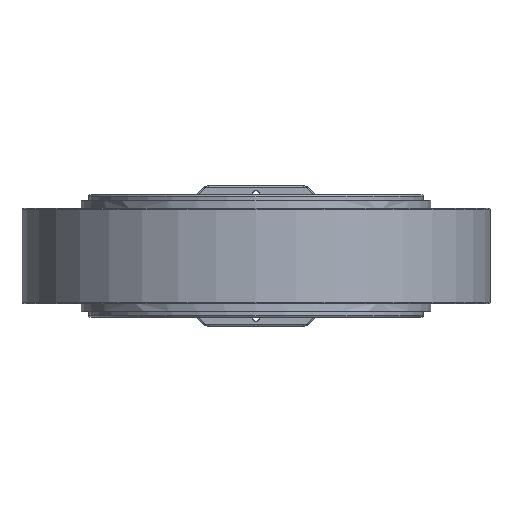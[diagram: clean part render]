
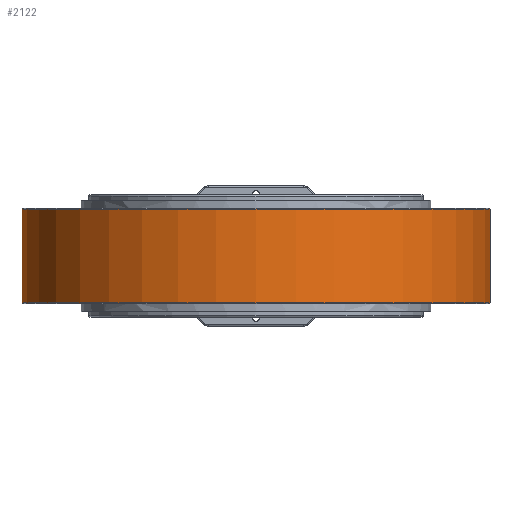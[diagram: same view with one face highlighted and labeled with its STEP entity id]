
A CAD part, front view. The second image highlights one B-rep face of the part: STEP entity #2122.
In plain terms, the highlighted cylindrical face has radius 170 mm (diameter 340 mm), a partial arc.
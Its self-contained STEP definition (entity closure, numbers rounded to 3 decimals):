
#2122=ADVANCED_FACE('',(#5571),#5573,.T.);
#5571=FACE_BOUND('',#5572,.T.);
#5572=EDGE_LOOP('',(#8674,#8675,#8676,#8677));
#5573=CYLINDRICAL_SURFACE('',#5574,170.);
#5574=AXIS2_PLACEMENT_3D('',#5575,#5576,#5577);
#5575=CARTESIAN_POINT('',(0.,0.,0.));
#5576=DIRECTION('',(0.,0.,1.));
#5577=DIRECTION('',(0.,-1.,0.));
#8674=ORIENTED_EDGE('',*,*,#10187,.F.);
#8675=ORIENTED_EDGE('',*,*,#10355,.F.);
#8676=ORIENTED_EDGE('',*,*,#10265,.F.);
#8677=ORIENTED_EDGE('',*,*,#10262,.F.);
#10187=EDGE_CURVE('',#11588,#11591,#11592,.T.);
#10262=EDGE_CURVE('',#11591,#11715,#11716,.T.);
#10265=EDGE_CURVE('',#11715,#11719,#11720,.T.);
#10355=EDGE_CURVE('',#11719,#11588,#11863,.T.);
#11588=VERTEX_POINT('',#17424);
#11591=VERTEX_POINT('',#17433);
#11592=CIRCLE('',#17434,170.);
#11715=VERTEX_POINT('',#19112);
#11716=LINE('',#19113,#19114);
#11719=VERTEX_POINT('',#19124);
#11720=CIRCLE('',#19125,170.);
#11863=LINE('',#20978,#20979);
#17424=CARTESIAN_POINT('',(-94.719,141.168,34.));
#17433=CARTESIAN_POINT('',(94.719,141.168,34.));
#17434=AXIS2_PLACEMENT_3D('',#17435,#17436,#17437);
#17435=CARTESIAN_POINT('',(0.,0.,34.));
#17436=DIRECTION('',(0.,0.,1.));
#17437=DIRECTION('',(-0.557,0.83,0.));
#19112=CARTESIAN_POINT('',(94.719,141.168,-34.));
#19113=CARTESIAN_POINT('',(94.719,141.168,34.));
#19114=VECTOR('',#19115,1.);
#19115=DIRECTION('',(0.,0.,-1.));
#19124=CARTESIAN_POINT('',(-94.719,141.168,-34.));
#19125=AXIS2_PLACEMENT_3D('',#19126,#19127,#19128);
#19126=CARTESIAN_POINT('',(0.,0.,-34.));
#19127=DIRECTION('',(0.,0.,-1.));
#19128=DIRECTION('',(0.557,0.83,0.));
#20978=CARTESIAN_POINT('',(-94.719,141.168,-34.));
#20979=VECTOR('',#20980,1.);
#20980=DIRECTION('',(0.,0.,1.));
